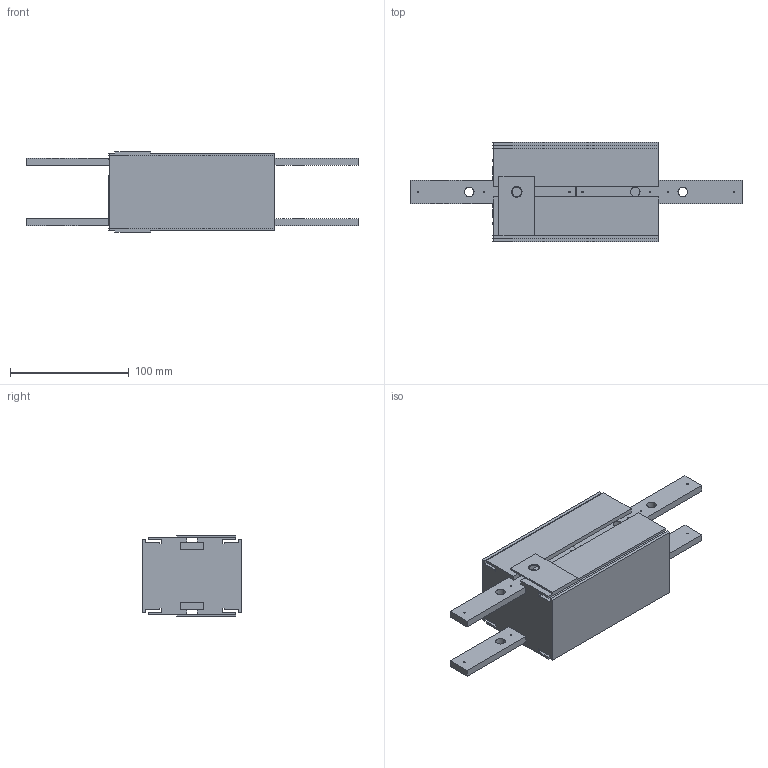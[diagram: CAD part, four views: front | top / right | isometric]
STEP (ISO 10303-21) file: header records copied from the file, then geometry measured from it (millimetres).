
FILE_DESCRIPTION (( 'STEP AP214' ), '1' );
FILE_NAME ('CS SL Kettingmontage.65.STEP', '2017-02-08T07:36:40', ( '' ), ( '' ), 'SwSTEP 2.0', 'SolidWorks 2016', '' );
FILE_SCHEMA (( 'AUTOMOTIVE_DESIGN' ));
Length unit declared in the file: millimetre
Products named in the file (1): CS SL Kettingmontage.65
Bounding box: 280 x 84 x 68 mm (x, y, z)
Volume: 765796.4 mm3; surface area: 88948.1 mm2
Topology: 1 solids, 1 shells, 152 faces, 416 edges, 272 vertices
Faces by surface type: plane 100, cylinder 52
Entity records: 4902 total; most frequent: CARTESIAN_POINT 841, DIRECTION 834, ORIENTED_EDGE 832, EDGE_CURVE 416, LINE 304, VECTOR 304, VERTEX_POINT 272, AXIS2_PLACEMENT_3D 265
